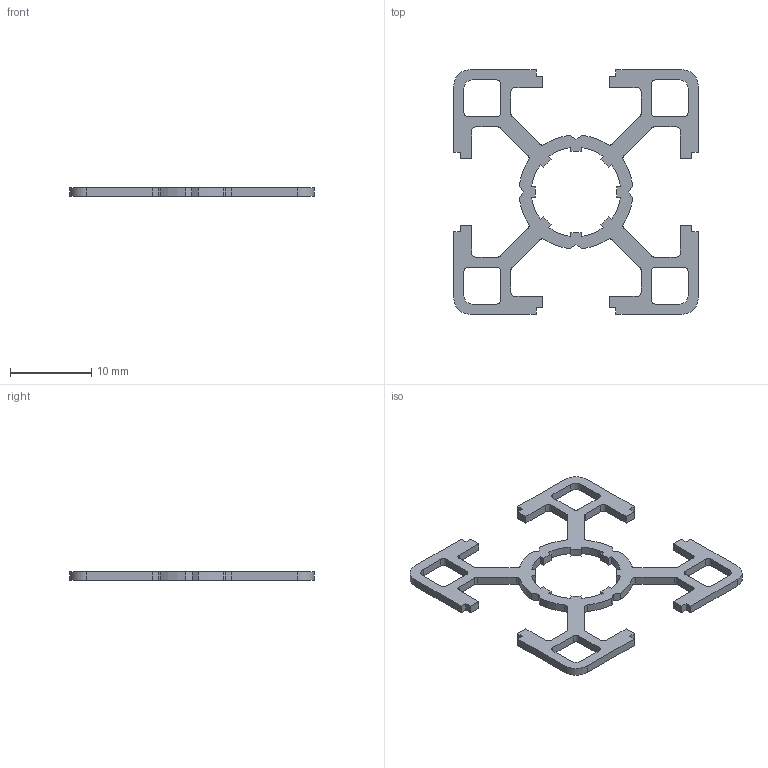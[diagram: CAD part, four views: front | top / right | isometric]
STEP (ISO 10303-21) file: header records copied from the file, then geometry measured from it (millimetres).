
FILE_DESCRIPTION(/* description */ ('Profilo 30x30 leggero'),/* implementation_level */ '2;1');
FILE_NAME(/* name */ 'C:\omnitec\Desktop\Profili\PG30\PG3030L.stp',/* time_stamp */ '2021-02-19T15:55:57+01:00',/* author */ ('omnitec'),/* organization */ (''),/* preprocessor_version */ 'ST-DEVELOPER v18.1',/* originating_system */ 'Autodesk Inventor 2021',/* authorisation */ '');
FILE_SCHEMA (('AUTOMOTIVE_DESIGN { 1 0 10303 214 3 1 1 }'));
Length unit declared in the file: millimetre
Products named in the file (1): PG3030L---1,0
Bounding box: 30 x 30 x 1 mm (x, y, z)
Volume: 278.8 mm3; surface area: 903.5 mm2
Topology: 1 solids, 1 shells, 166 faces, 492 edges, 328 vertices
Faces by surface type: plane 98, cylinder 68
Entity records: 5633 total; most frequent: CARTESIAN_POINT 987, ORIENTED_EDGE 984, DIRECTION 962, EDGE_CURVE 492, LINE 356, VECTOR 356, VERTEX_POINT 328, AXIS2_PLACEMENT_3D 303
